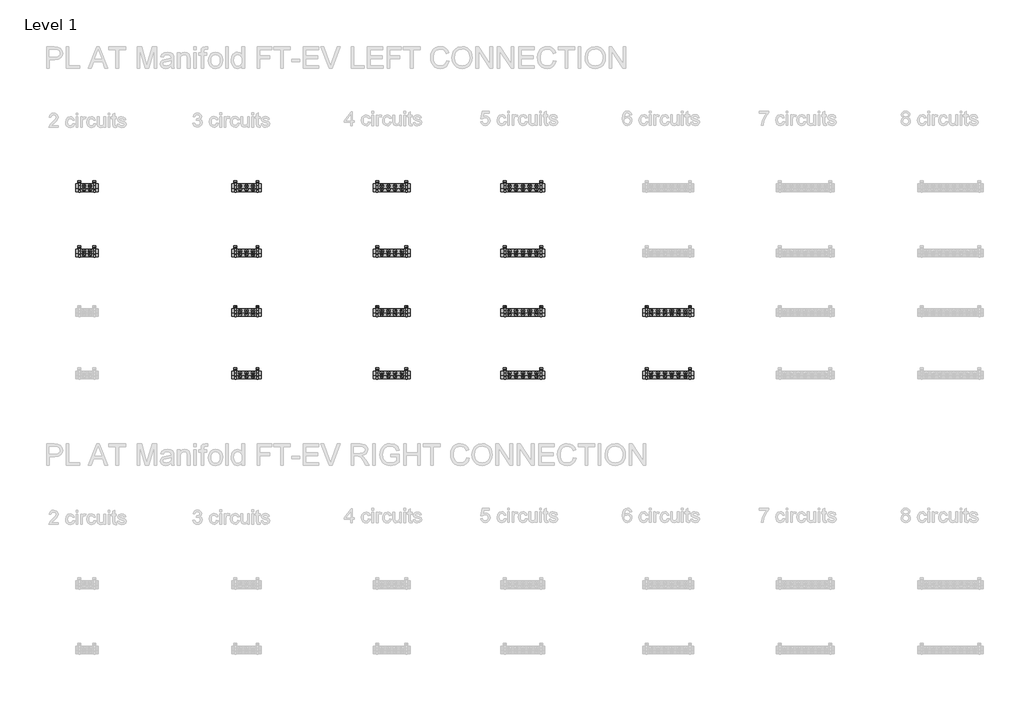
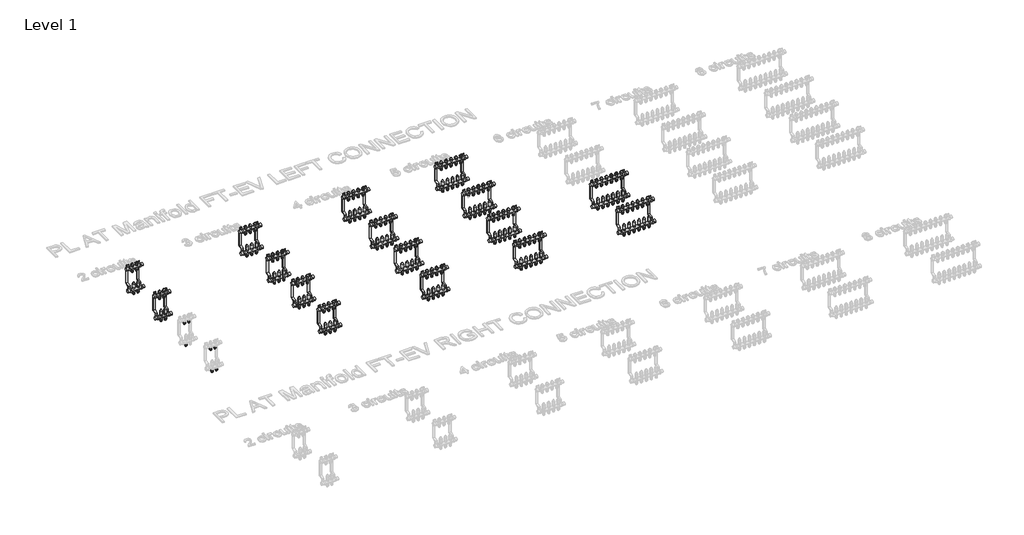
# One storey, part 8 of 23: 134 pipe fittings, 16 valves.
"""IFC4 building model written with IfcOpenShell, lengths in millimetres."""

from ifc_helpers import new_model, si_unit, origin, place, context, project, spatial, transform, mapped, element, save
from components import pipe_fitting_03c6499f, valve_7f0c1a37, valve_5e9e6dc7, valve_06e325c5, valve_a29cd3ca, valve_0794a25a, valve_64aa8ca1, valve_0c7f9d95, valve_02e7046f

model = new_model("IFC4")

# Units and contexts
model_context = context("Model", 3, world=origin())
ifc_project = project(units=[si_unit("LENGTHUNIT", "METRE", prefix="MILLI")], contexts=[model_context])

# Site, building, storey
site = spatial("IfcSite", under=ifc_project)
building = spatial("IfcBuilding", under=site)
storey = spatial("IfcBuildingStorey", under=building, Name="Level 1", Elevation=0.0)

# Pipe fittings
placement = place(None, origin())
pipe_fitting_shape = pipe_fitting_03c6499f(model_context)
element("IfcPipeFitting", 1, ObjectType="Euroconus screwing for multilayer pipes - Manifold FT : Euroconus screwing for multilayer pipes - Manifold FT", at=placement, inside=storey, context=model_context, shape_type="MappedRepresentation", body=[
    mapped(pipe_fitting_shape, transform((1334.9796862, 1635.3040686, 62.88733), x_axis=(0.0, 0.0, -1.0), y_axis=(0.0, 1.0000000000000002, 0.0), z_axis=(1.0000000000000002, 0.0, 0.0))),
])
element("IfcPipeFitting", 2, ObjectType="Euroconus screwing for multilayer pipes - Manifold FT : Euroconus screwing for multilayer pipes - Manifold FT", at=placement, inside=storey, context=model_context, shape_type="MappedRepresentation", body=[
    mapped(pipe_fitting_shape, transform((1334.9796862, 1660.3040686, 272.88733), x_axis=(0.0, 0.0, -1.0), y_axis=(0.0, 1.0000000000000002, 0.0), z_axis=(1.0000000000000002, 0.0, 0.0))),
])
element("IfcPipeFitting", 3, ObjectType="Euroconus screwing for multilayer pipes - Manifold FT : Euroconus screwing for multilayer pipes - Manifold FT", at=placement, inside=storey, context=model_context, shape_type="MappedRepresentation", body=[
    mapped(pipe_fitting_shape, transform((1292.9796862, 1635.3040686, 62.88733), x_axis=(0.0, 0.0, -1.0), y_axis=(0.0, 1.0000000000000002, 0.0), z_axis=(1.0000000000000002, 0.0, 0.0))),
])
element("IfcPipeFitting", 4, ObjectType="Euroconus screwing for multilayer pipes - Manifold FT : Euroconus screwing for multilayer pipes - Manifold FT", at=placement, inside=storey, context=model_context, shape_type="MappedRepresentation", body=[
    mapped(pipe_fitting_shape, transform((1292.9796862, 1660.3040686, 272.88733), x_axis=(0.0, 0.0, -1.0), y_axis=(0.0, 1.0000000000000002, 0.0), z_axis=(1.0000000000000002, 0.0, 0.0))),
])
element("IfcPipeFitting", 5, ObjectType="Euroconus screwing for multilayer pipes - Manifold FT : Euroconus screwing for multilayer pipes - Manifold FT", at=placement, inside=storey, context=model_context, shape_type="MappedRepresentation", body=[
    mapped(pipe_fitting_shape, transform((1334.9796862, 1175.3040686, 62.88733), x_axis=(0.0, 0.0, -1.0), y_axis=(0.0, 1.0000000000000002, 0.0), z_axis=(1.0000000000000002, 0.0, 0.0))),
])
element("IfcPipeFitting", 6, ObjectType="Euroconus screwing for multilayer pipes - Manifold FT : Euroconus screwing for multilayer pipes - Manifold FT", at=placement, inside=storey, context=model_context, shape_type="MappedRepresentation", body=[
    mapped(pipe_fitting_shape, transform((1334.9796862, 1200.3040686, 272.88733), x_axis=(0.0, 0.0, -1.0), y_axis=(0.0, 1.0000000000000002, 0.0), z_axis=(1.0000000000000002, 0.0, 0.0))),
])
element("IfcPipeFitting", 7, ObjectType="Euroconus screwing for multilayer pipes - Manifold FT : Euroconus screwing for multilayer pipes - Manifold FT", at=placement, inside=storey, context=model_context, shape_type="MappedRepresentation", body=[
    mapped(pipe_fitting_shape, transform((1292.9796862, 1175.3040686, 62.88733), x_axis=(0.0, 0.0, -1.0), y_axis=(0.0, 1.0000000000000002, 0.0), z_axis=(1.0000000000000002, 0.0, 0.0))),
])
element("IfcPipeFitting", 8, ObjectType="Euroconus screwing for multilayer pipes - Manifold FT : Euroconus screwing for multilayer pipes - Manifold FT", at=placement, inside=storey, context=model_context, shape_type="MappedRepresentation", body=[
    mapped(pipe_fitting_shape, transform((1292.9796862, 1200.3040686, 272.88733), x_axis=(0.0, 0.0, -1.0), y_axis=(0.0, 1.0000000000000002, 0.0), z_axis=(1.0000000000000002, 0.0, 0.0))),
])
element("IfcPipeFitting", 9, ObjectType="Euroconus screwing for multilayer pipes - Manifold FT : Euroconus screwing for multilayer pipes - Manifold FT", at=placement, inside=storey, context=model_context, shape_type="MappedRepresentation", body=[
    mapped(pipe_fitting_shape, transform((1334.9796862, 780.3040686, 272.88733), x_axis=(0.0, 0.0, -1.0), y_axis=(0.0, 1.0000000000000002, 0.0), z_axis=(1.0000000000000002, 0.0, 0.0))),
])
element("IfcPipeFitting", 10, ObjectType="Euroconus screwing for multilayer pipes - Manifold FT : Euroconus screwing for multilayer pipes - Manifold FT", at=placement, inside=storey, context=model_context, shape_type="MappedRepresentation", body=[
    mapped(pipe_fitting_shape, transform((1292.9796862, 755.3040686, 62.88733), x_axis=(0.0, 0.0, -1.0), y_axis=(0.0, 1.0000000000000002, 0.0), z_axis=(1.0000000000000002, 0.0, 0.0))),
])
element("IfcPipeFitting", 11, ObjectType="Euroconus screwing for multilayer pipes - Manifold FT : Euroconus screwing for multilayer pipes - Manifold FT", at=placement, inside=storey, context=model_context, shape_type="MappedRepresentation", body=[
    mapped(pipe_fitting_shape, transform((1292.9796862, 780.3040686, 272.88733), x_axis=(0.0, 0.0, -1.0), y_axis=(0.0, 1.0000000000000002, 0.0), z_axis=(1.0000000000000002, 0.0, 0.0))),
])
element("IfcPipeFitting", 12, ObjectType="Euroconus screwing for multilayer pipes - Manifold FT : Euroconus screwing for multilayer pipes - Manifold FT", at=placement, inside=storey, context=model_context, shape_type="MappedRepresentation", body=[
    mapped(pipe_fitting_shape, transform((1334.9796862, 315.3040686, 62.88733), x_axis=(0.0, 0.0, -1.0), y_axis=(0.0, 1.0000000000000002, 0.0), z_axis=(1.0000000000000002, 0.0, 0.0))),
])
element("IfcPipeFitting", 13, ObjectType="Euroconus screwing for multilayer pipes - Manifold FT : Euroconus screwing for multilayer pipes - Manifold FT", at=placement, inside=storey, context=model_context, shape_type="MappedRepresentation", body=[
    mapped(pipe_fitting_shape, transform((1334.9796862, 340.3040686, 272.88733), x_axis=(0.0, 0.0, -1.0), y_axis=(0.0, 1.0000000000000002, 0.0), z_axis=(1.0000000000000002, 0.0, 0.0))),
])
element("IfcPipeFitting", 14, ObjectType="Euroconus screwing for multilayer pipes - Manifold FT : Euroconus screwing for multilayer pipes - Manifold FT", at=placement, inside=storey, context=model_context, shape_type="MappedRepresentation", body=[
    mapped(pipe_fitting_shape, transform((1292.9796862, 315.3040686, 62.88733), x_axis=(0.0, 0.0, -1.0), y_axis=(0.0, 1.0000000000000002, 0.0), z_axis=(1.0000000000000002, 0.0, 0.0))),
])
element("IfcPipeFitting", 15, ObjectType="Euroconus screwing for multilayer pipes - Manifold FT : Euroconus screwing for multilayer pipes - Manifold FT", at=placement, inside=storey, context=model_context, shape_type="MappedRepresentation", body=[
    mapped(pipe_fitting_shape, transform((1292.9796862, 340.3040686, 272.88733), x_axis=(0.0, 0.0, -1.0), y_axis=(0.0, 1.0000000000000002, 0.0), z_axis=(1.0000000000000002, 0.0, 0.0))),
])
element("IfcPipeFitting", 16, ObjectType="Euroconus screwing for multilayer pipes - Manifold FT : Euroconus screwing for multilayer pipes - Manifold FT", at=placement, inside=storey, context=model_context, shape_type="MappedRepresentation", body=[
    mapped(pipe_fitting_shape, transform((2438.9796862, 1635.3040686, 62.88733), x_axis=(0.0, 0.0, -1.0), y_axis=(0.0, 1.0000000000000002, 0.0), z_axis=(1.0000000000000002, 0.0, 0.0))),
])
element("IfcPipeFitting", 17, ObjectType="Euroconus screwing for multilayer pipes - Manifold FT : Euroconus screwing for multilayer pipes - Manifold FT", at=placement, inside=storey, context=model_context, shape_type="MappedRepresentation", body=[
    mapped(pipe_fitting_shape, transform((2484.9796862, 1635.3040686, 62.88733), x_axis=(0.0, 0.0, -1.0), y_axis=(0.0, 1.0000000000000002, 0.0), z_axis=(1.0000000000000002, 0.0, 0.0))),
])
element("IfcPipeFitting", 18, ObjectType="Euroconus screwing for multilayer pipes - Manifold FT : Euroconus screwing for multilayer pipes - Manifold FT", at=placement, inside=storey, context=model_context, shape_type="MappedRepresentation", body=[
    mapped(pipe_fitting_shape, transform((2438.9796862, 1660.3040686, 272.88733), x_axis=(0.0, 0.0, -1.0), y_axis=(0.0, 1.0000000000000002, 0.0), z_axis=(1.0000000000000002, 0.0, 0.0))),
])
element("IfcPipeFitting", 19, ObjectType="Euroconus screwing for multilayer pipes - Manifold FT : Euroconus screwing for multilayer pipes - Manifold FT", at=placement, inside=storey, context=model_context, shape_type="MappedRepresentation", body=[
    mapped(pipe_fitting_shape, transform((2484.9796862, 1660.3040686, 272.88733), x_axis=(0.0, 0.0, -1.0), y_axis=(0.0, 1.0000000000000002, 0.0), z_axis=(1.0000000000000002, 0.0, 0.0))),
])
element("IfcPipeFitting", 20, ObjectType="Euroconus screwing for multilayer pipes - Manifold FT : Euroconus screwing for multilayer pipes - Manifold FT", at=placement, inside=storey, context=model_context, shape_type="MappedRepresentation", body=[
    mapped(pipe_fitting_shape, transform((2392.9796862, 1635.3040686, 62.88733), x_axis=(0.0, 0.0, -1.0), y_axis=(0.0, 1.0000000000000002, 0.0), z_axis=(1.0000000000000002, 0.0, 0.0))),
])
element("IfcPipeFitting", 21, ObjectType="Euroconus screwing for multilayer pipes - Manifold FT : Euroconus screwing for multilayer pipes - Manifold FT", at=placement, inside=storey, context=model_context, shape_type="MappedRepresentation", body=[
    mapped(pipe_fitting_shape, transform((2392.9796862, 1660.3040686, 272.88733), x_axis=(0.0, 0.0, -1.0), y_axis=(0.0, 1.0000000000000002, 0.0), z_axis=(1.0000000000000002, 0.0, 0.0))),
])
element("IfcPipeFitting", 22, ObjectType="Euroconus screwing for multilayer pipes - Manifold FT : Euroconus screwing for multilayer pipes - Manifold FT", at=placement, inside=storey, context=model_context, shape_type="MappedRepresentation", body=[
    mapped(pipe_fitting_shape, transform((2438.9796862, 1175.3040686, 62.88733), x_axis=(0.0, 0.0, -1.0), y_axis=(0.0, 1.0000000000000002, 0.0), z_axis=(1.0000000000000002, 0.0, 0.0))),
])
element("IfcPipeFitting", 23, ObjectType="Euroconus screwing for multilayer pipes - Manifold FT : Euroconus screwing for multilayer pipes - Manifold FT", at=placement, inside=storey, context=model_context, shape_type="MappedRepresentation", body=[
    mapped(pipe_fitting_shape, transform((2484.9796862, 1175.3040686, 62.88733), x_axis=(0.0, 0.0, -1.0), y_axis=(0.0, 1.0000000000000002, 0.0), z_axis=(1.0000000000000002, 0.0, 0.0))),
])
element("IfcPipeFitting", 24, ObjectType="Euroconus screwing for multilayer pipes - Manifold FT : Euroconus screwing for multilayer pipes - Manifold FT", at=placement, inside=storey, context=model_context, shape_type="MappedRepresentation", body=[
    mapped(pipe_fitting_shape, transform((2438.9796862, 1200.3040686, 272.88733), x_axis=(0.0, 0.0, -1.0), y_axis=(0.0, 1.0000000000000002, 0.0), z_axis=(1.0000000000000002, 0.0, 0.0))),
])
element("IfcPipeFitting", 25, ObjectType="Euroconus screwing for multilayer pipes - Manifold FT : Euroconus screwing for multilayer pipes - Manifold FT", at=placement, inside=storey, context=model_context, shape_type="MappedRepresentation", body=[
    mapped(pipe_fitting_shape, transform((2484.9796862, 1200.3040686, 272.88733), x_axis=(0.0, 0.0, -1.0), y_axis=(0.0, 1.0000000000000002, 0.0), z_axis=(1.0000000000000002, 0.0, 0.0))),
])
element("IfcPipeFitting", 26, ObjectType="Euroconus screwing for multilayer pipes - Manifold FT : Euroconus screwing for multilayer pipes - Manifold FT", at=placement, inside=storey, context=model_context, shape_type="MappedRepresentation", body=[
    mapped(pipe_fitting_shape, transform((2392.9796862, 1175.3040686, 62.88733), x_axis=(0.0, 0.0, -1.0), y_axis=(0.0, 1.0000000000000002, 0.0), z_axis=(1.0000000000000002, 0.0, 0.0))),
])
element("IfcPipeFitting", 27, ObjectType="Euroconus screwing for multilayer pipes - Manifold FT : Euroconus screwing for multilayer pipes - Manifold FT", at=placement, inside=storey, context=model_context, shape_type="MappedRepresentation", body=[
    mapped(pipe_fitting_shape, transform((2392.9796862, 1200.3040686, 272.88733), x_axis=(0.0, 0.0, -1.0), y_axis=(0.0, 1.0000000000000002, 0.0), z_axis=(1.0000000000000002, 0.0, 0.0))),
])
element("IfcPipeFitting", 28, ObjectType="Euroconus screwing for multilayer pipes - Manifold FT : Euroconus screwing for multilayer pipes - Manifold FT", at=placement, inside=storey, context=model_context, shape_type="MappedRepresentation", body=[
    mapped(pipe_fitting_shape, transform((2438.9796862, 755.3040686, 62.88733), x_axis=(0.0, 0.0, -1.0), y_axis=(0.0, 1.0000000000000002, 0.0), z_axis=(1.0000000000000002, 0.0, 0.0))),
])
element("IfcPipeFitting", 29, ObjectType="Euroconus screwing for multilayer pipes - Manifold FT : Euroconus screwing for multilayer pipes - Manifold FT", at=placement, inside=storey, context=model_context, shape_type="MappedRepresentation", body=[
    mapped(pipe_fitting_shape, transform((2484.9796862, 755.3040686, 62.88733), x_axis=(0.0, 0.0, -1.0), y_axis=(0.0, 1.0000000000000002, 0.0), z_axis=(1.0000000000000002, 0.0, 0.0))),
])
element("IfcPipeFitting", 30, ObjectType="Euroconus screwing for multilayer pipes - Manifold FT : Euroconus screwing for multilayer pipes - Manifold FT", at=placement, inside=storey, context=model_context, shape_type="MappedRepresentation", body=[
    mapped(pipe_fitting_shape, transform((2438.9796862, 780.3040686, 272.88733), x_axis=(0.0, 0.0, -1.0), y_axis=(0.0, 1.0000000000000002, 0.0), z_axis=(1.0000000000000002, 0.0, 0.0))),
])
element("IfcPipeFitting", 31, ObjectType="Euroconus screwing for multilayer pipes - Manifold FT : Euroconus screwing for multilayer pipes - Manifold FT", at=placement, inside=storey, context=model_context, shape_type="MappedRepresentation", body=[
    mapped(pipe_fitting_shape, transform((2484.9796862, 780.3040686, 272.88733), x_axis=(0.0, 0.0, -1.0), y_axis=(0.0, 1.0000000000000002, 0.0), z_axis=(1.0000000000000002, 0.0, 0.0))),
])
element("IfcPipeFitting", 32, ObjectType="Euroconus screwing for multilayer pipes - Manifold FT : Euroconus screwing for multilayer pipes - Manifold FT", at=placement, inside=storey, context=model_context, shape_type="MappedRepresentation", body=[
    mapped(pipe_fitting_shape, transform((2392.9796862, 755.3040686, 62.88733), x_axis=(0.0, 0.0, -1.0), y_axis=(0.0, 1.0000000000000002, 0.0), z_axis=(1.0000000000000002, 0.0, 0.0))),
])
element("IfcPipeFitting", 33, ObjectType="Euroconus screwing for multilayer pipes - Manifold FT : Euroconus screwing for multilayer pipes - Manifold FT", at=placement, inside=storey, context=model_context, shape_type="MappedRepresentation", body=[
    mapped(pipe_fitting_shape, transform((2392.9796862, 780.3040686, 272.88733), x_axis=(0.0, 0.0, -1.0), y_axis=(0.0, 1.0000000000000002, 0.0), z_axis=(1.0000000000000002, 0.0, 0.0))),
])
element("IfcPipeFitting", 34, ObjectType="Euroconus screwing for multilayer pipes - Manifold FT : Euroconus screwing for multilayer pipes - Manifold FT", at=placement, inside=storey, context=model_context, shape_type="MappedRepresentation", body=[
    mapped(pipe_fitting_shape, transform((2438.9796862, 315.3040686, 62.88733), x_axis=(0.0, 0.0, -1.0), y_axis=(0.0, 1.0000000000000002, 0.0), z_axis=(1.0000000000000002, 0.0, 0.0))),
])
element("IfcPipeFitting", 35, ObjectType="Euroconus screwing for multilayer pipes - Manifold FT : Euroconus screwing for multilayer pipes - Manifold FT", at=placement, inside=storey, context=model_context, shape_type="MappedRepresentation", body=[
    mapped(pipe_fitting_shape, transform((2484.9796862, 315.3040686, 62.88733), x_axis=(0.0, 0.0, -1.0), y_axis=(0.0, 1.0000000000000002, 0.0), z_axis=(1.0000000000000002, 0.0, 0.0))),
])
element("IfcPipeFitting", 36, ObjectType="Euroconus screwing for multilayer pipes - Manifold FT : Euroconus screwing for multilayer pipes - Manifold FT", at=placement, inside=storey, context=model_context, shape_type="MappedRepresentation", body=[
    mapped(pipe_fitting_shape, transform((2438.9796862, 340.3040686, 272.88733), x_axis=(0.0, 0.0, -1.0), y_axis=(0.0, 1.0000000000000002, 0.0), z_axis=(1.0000000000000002, 0.0, 0.0))),
])
element("IfcPipeFitting", 37, ObjectType="Euroconus screwing for multilayer pipes - Manifold FT : Euroconus screwing for multilayer pipes - Manifold FT", at=placement, inside=storey, context=model_context, shape_type="MappedRepresentation", body=[
    mapped(pipe_fitting_shape, transform((2484.9796862, 340.3040686, 272.88733), x_axis=(0.0, 0.0, -1.0), y_axis=(0.0, 1.0000000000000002, 0.0), z_axis=(1.0000000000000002, 0.0, 0.0))),
])
element("IfcPipeFitting", 38, ObjectType="Euroconus screwing for multilayer pipes - Manifold FT : Euroconus screwing for multilayer pipes - Manifold FT", at=placement, inside=storey, context=model_context, shape_type="MappedRepresentation", body=[
    mapped(pipe_fitting_shape, transform((2392.9796862, 315.3040686, 62.88733), x_axis=(0.0, 0.0, -1.0), y_axis=(0.0, 1.0000000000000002, 0.0), z_axis=(1.0000000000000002, 0.0, 0.0))),
])
element("IfcPipeFitting", 39, ObjectType="Euroconus screwing for multilayer pipes - Manifold FT : Euroconus screwing for multilayer pipes - Manifold FT", at=placement, inside=storey, context=model_context, shape_type="MappedRepresentation", body=[
    mapped(pipe_fitting_shape, transform((2392.9796862, 340.3040686, 272.88733), x_axis=(0.0, 0.0, -1.0), y_axis=(0.0, 1.0000000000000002, 0.0), z_axis=(1.0000000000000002, 0.0, 0.0))),
])
element("IfcPipeFitting", 40, ObjectType="Euroconus screwing for multilayer pipes - Manifold FT : Euroconus screwing for multilayer pipes - Manifold FT", at=placement, inside=storey, context=model_context, shape_type="MappedRepresentation", body=[
    mapped(pipe_fitting_shape, transform((3487.6463528, 1635.3040686, 62.88733), x_axis=(0.0, 0.0, -1.0), y_axis=(0.0, 1.0000000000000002, 0.0), z_axis=(1.0000000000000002, 0.0, 0.0))),
])
element("IfcPipeFitting", 41, ObjectType="Euroconus screwing for multilayer pipes - Manifold FT : Euroconus screwing for multilayer pipes - Manifold FT", at=placement, inside=storey, context=model_context, shape_type="MappedRepresentation", body=[
    mapped(pipe_fitting_shape, transform((3440.3130195, 1635.3040686, 62.88733), x_axis=(0.0, 0.0, -1.0), y_axis=(0.0, 1.0000000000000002, 0.0), z_axis=(1.0000000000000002, 0.0, 0.0))),
])
element("IfcPipeFitting", 42, ObjectType="Euroconus screwing for multilayer pipes - Manifold FT : Euroconus screwing for multilayer pipes - Manifold FT", at=placement, inside=storey, context=model_context, shape_type="MappedRepresentation", body=[
    mapped(pipe_fitting_shape, transform((3534.9796862, 1635.3040686, 62.88733), x_axis=(0.0, 0.0, -1.0), y_axis=(0.0, 1.0000000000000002, 0.0), z_axis=(1.0000000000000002, 0.0, 0.0))),
])
element("IfcPipeFitting", 43, ObjectType="Euroconus screwing for multilayer pipes - Manifold FT : Euroconus screwing for multilayer pipes - Manifold FT", at=placement, inside=storey, context=model_context, shape_type="MappedRepresentation", body=[
    mapped(pipe_fitting_shape, transform((3487.6463528, 1660.3040686, 272.88733), x_axis=(0.0, 0.0, -1.0), y_axis=(0.0, 1.0000000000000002, 0.0), z_axis=(1.0000000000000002, 0.0, 0.0))),
])
element("IfcPipeFitting", 44, ObjectType="Euroconus screwing for multilayer pipes - Manifold FT : Euroconus screwing for multilayer pipes - Manifold FT", at=placement, inside=storey, context=model_context, shape_type="MappedRepresentation", body=[
    mapped(pipe_fitting_shape, transform((3440.3130195, 1660.3040686, 272.88733), x_axis=(0.0, 0.0, -1.0), y_axis=(0.0, 1.0000000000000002, 0.0), z_axis=(1.0000000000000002, 0.0, 0.0))),
])
element("IfcPipeFitting", 45, ObjectType="Euroconus screwing for multilayer pipes - Manifold FT : Euroconus screwing for multilayer pipes - Manifold FT", at=placement, inside=storey, context=model_context, shape_type="MappedRepresentation", body=[
    mapped(pipe_fitting_shape, transform((3534.9796862, 1660.3040686, 272.88733), x_axis=(0.0, 0.0, -1.0), y_axis=(0.0, 1.0000000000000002, 0.0), z_axis=(1.0000000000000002, 0.0, 0.0))),
])
element("IfcPipeFitting", 46, ObjectType="Euroconus screwing for multilayer pipes - Manifold FT : Euroconus screwing for multilayer pipes - Manifold FT", at=placement, inside=storey, context=model_context, shape_type="MappedRepresentation", body=[
    mapped(pipe_fitting_shape, transform((3392.9796862, 1635.3040686, 62.88733), x_axis=(0.0, 0.0, -1.0), y_axis=(0.0, 1.0000000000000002, 0.0), z_axis=(1.0000000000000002, 0.0, 0.0))),
])
element("IfcPipeFitting", 47, ObjectType="Euroconus screwing for multilayer pipes - Manifold FT : Euroconus screwing for multilayer pipes - Manifold FT", at=placement, inside=storey, context=model_context, shape_type="MappedRepresentation", body=[
    mapped(pipe_fitting_shape, transform((3392.9796862, 1660.3040686, 272.88733), x_axis=(0.0, 0.0, -1.0), y_axis=(0.0, 1.0000000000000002, 0.0), z_axis=(1.0000000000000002, 0.0, 0.0))),
])
element("IfcPipeFitting", 48, ObjectType="Euroconus screwing for multilayer pipes - Manifold FT : Euroconus screwing for multilayer pipes - Manifold FT", at=placement, inside=storey, context=model_context, shape_type="MappedRepresentation", body=[
    mapped(pipe_fitting_shape, transform((3487.6463528, 1175.3040686, 62.88733), x_axis=(0.0, 0.0, -1.0), y_axis=(0.0, 1.0000000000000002, 0.0), z_axis=(1.0000000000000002, 0.0, 0.0))),
])
element("IfcPipeFitting", 49, ObjectType="Euroconus screwing for multilayer pipes - Manifold FT : Euroconus screwing for multilayer pipes - Manifold FT", at=placement, inside=storey, context=model_context, shape_type="MappedRepresentation", body=[
    mapped(pipe_fitting_shape, transform((3440.3130195, 1175.3040686, 62.88733), x_axis=(0.0, 0.0, -1.0), y_axis=(0.0, 1.0000000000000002, 0.0), z_axis=(1.0000000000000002, 0.0, 0.0))),
])
element("IfcPipeFitting", 50, ObjectType="Euroconus screwing for multilayer pipes - Manifold FT : Euroconus screwing for multilayer pipes - Manifold FT", at=placement, inside=storey, context=model_context, shape_type="MappedRepresentation", body=[
    mapped(pipe_fitting_shape, transform((3534.9796862, 1175.3040686, 62.88733), x_axis=(0.0, 0.0, -1.0), y_axis=(0.0, 1.0000000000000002, 0.0), z_axis=(1.0000000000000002, 0.0, 0.0))),
])
element("IfcPipeFitting", 51, ObjectType="Euroconus screwing for multilayer pipes - Manifold FT : Euroconus screwing for multilayer pipes - Manifold FT", at=placement, inside=storey, context=model_context, shape_type="MappedRepresentation", body=[
    mapped(pipe_fitting_shape, transform((3487.6463528, 1200.3040686, 272.88733), x_axis=(0.0, 0.0, -1.0), y_axis=(0.0, 1.0000000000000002, 0.0), z_axis=(1.0000000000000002, 0.0, 0.0))),
])
element("IfcPipeFitting", 52, ObjectType="Euroconus screwing for multilayer pipes - Manifold FT : Euroconus screwing for multilayer pipes - Manifold FT", at=placement, inside=storey, context=model_context, shape_type="MappedRepresentation", body=[
    mapped(pipe_fitting_shape, transform((3440.3130195, 1200.3040686, 272.88733), x_axis=(0.0, 0.0, -1.0), y_axis=(0.0, 1.0000000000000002, 0.0), z_axis=(1.0000000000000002, 0.0, 0.0))),
])
element("IfcPipeFitting", 53, ObjectType="Euroconus screwing for multilayer pipes - Manifold FT : Euroconus screwing for multilayer pipes - Manifold FT", at=placement, inside=storey, context=model_context, shape_type="MappedRepresentation", body=[
    mapped(pipe_fitting_shape, transform((3534.9796862, 1200.3040686, 272.88733), x_axis=(0.0, 0.0, -1.0), y_axis=(0.0, 1.0000000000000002, 0.0), z_axis=(1.0000000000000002, 0.0, 0.0))),
])
element("IfcPipeFitting", 54, ObjectType="Euroconus screwing for multilayer pipes - Manifold FT : Euroconus screwing for multilayer pipes - Manifold FT", at=placement, inside=storey, context=model_context, shape_type="MappedRepresentation", body=[
    mapped(pipe_fitting_shape, transform((3392.9796862, 1175.3040686, 62.88733), x_axis=(0.0, 0.0, -1.0), y_axis=(0.0, 1.0000000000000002, 0.0), z_axis=(1.0000000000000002, 0.0, 0.0))),
])
element("IfcPipeFitting", 55, ObjectType="Euroconus screwing for multilayer pipes - Manifold FT : Euroconus screwing for multilayer pipes - Manifold FT", at=placement, inside=storey, context=model_context, shape_type="MappedRepresentation", body=[
    mapped(pipe_fitting_shape, transform((3392.9796862, 1200.3040686, 272.88733), x_axis=(0.0, 0.0, -1.0), y_axis=(0.0, 1.0000000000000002, 0.0), z_axis=(1.0000000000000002, 0.0, 0.0))),
])
element("IfcPipeFitting", 56, ObjectType="Euroconus screwing for multilayer pipes - Manifold FT : Euroconus screwing for multilayer pipes - Manifold FT", at=placement, inside=storey, context=model_context, shape_type="MappedRepresentation", body=[
    mapped(pipe_fitting_shape, transform((3487.6463528, 755.3040686, 62.88733), x_axis=(0.0, 0.0, -1.0), y_axis=(0.0, 1.0000000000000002, 0.0), z_axis=(1.0000000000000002, 0.0, 0.0))),
])
element("IfcPipeFitting", 57, ObjectType="Euroconus screwing for multilayer pipes - Manifold FT : Euroconus screwing for multilayer pipes - Manifold FT", at=placement, inside=storey, context=model_context, shape_type="MappedRepresentation", body=[
    mapped(pipe_fitting_shape, transform((3440.3130195, 755.3040686, 62.88733), x_axis=(0.0, 0.0, -1.0), y_axis=(0.0, 1.0000000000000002, 0.0), z_axis=(1.0000000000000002, 0.0, 0.0))),
])
element("IfcPipeFitting", 58, ObjectType="Euroconus screwing for multilayer pipes - Manifold FT : Euroconus screwing for multilayer pipes - Manifold FT", at=placement, inside=storey, context=model_context, shape_type="MappedRepresentation", body=[
    mapped(pipe_fitting_shape, transform((3534.9796862, 755.3040686, 62.88733), x_axis=(0.0, 0.0, -1.0), y_axis=(0.0, 1.0000000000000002, 0.0), z_axis=(1.0000000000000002, 0.0, 0.0))),
])
element("IfcPipeFitting", 59, ObjectType="Euroconus screwing for multilayer pipes - Manifold FT : Euroconus screwing for multilayer pipes - Manifold FT", at=placement, inside=storey, context=model_context, shape_type="MappedRepresentation", body=[
    mapped(pipe_fitting_shape, transform((3487.6463528, 780.3040686, 272.88733), x_axis=(0.0, 0.0, -1.0), y_axis=(0.0, 1.0000000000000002, 0.0), z_axis=(1.0000000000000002, 0.0, 0.0))),
])
element("IfcPipeFitting", 60, ObjectType="Euroconus screwing for multilayer pipes - Manifold FT : Euroconus screwing for multilayer pipes - Manifold FT", at=placement, inside=storey, context=model_context, shape_type="MappedRepresentation", body=[
    mapped(pipe_fitting_shape, transform((3440.3130195, 780.3040686, 272.88733), x_axis=(0.0, 0.0, -1.0), y_axis=(0.0, 1.0000000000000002, 0.0), z_axis=(1.0000000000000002, 0.0, 0.0))),
])
element("IfcPipeFitting", 61, ObjectType="Euroconus screwing for multilayer pipes - Manifold FT : Euroconus screwing for multilayer pipes - Manifold FT", at=placement, inside=storey, context=model_context, shape_type="MappedRepresentation", body=[
    mapped(pipe_fitting_shape, transform((3534.9796862, 780.3040686, 272.88733), x_axis=(0.0, 0.0, -1.0), y_axis=(0.0, 1.0000000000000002, 0.0), z_axis=(1.0000000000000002, 0.0, 0.0))),
])
element("IfcPipeFitting", 62, ObjectType="Euroconus screwing for multilayer pipes - Manifold FT : Euroconus screwing for multilayer pipes - Manifold FT", at=placement, inside=storey, context=model_context, shape_type="MappedRepresentation", body=[
    mapped(pipe_fitting_shape, transform((3392.9796862, 755.3040686, 62.88733), x_axis=(0.0, 0.0, -1.0), y_axis=(0.0, 1.0000000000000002, 0.0), z_axis=(1.0000000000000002, 0.0, 0.0))),
])
element("IfcPipeFitting", 63, ObjectType="Euroconus screwing for multilayer pipes - Manifold FT : Euroconus screwing for multilayer pipes - Manifold FT", at=placement, inside=storey, context=model_context, shape_type="MappedRepresentation", body=[
    mapped(pipe_fitting_shape, transform((3392.9796862, 780.3040686, 272.88733), x_axis=(0.0, 0.0, -1.0), y_axis=(0.0, 1.0000000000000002, 0.0), z_axis=(1.0000000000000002, 0.0, 0.0))),
])
element("IfcPipeFitting", 64, ObjectType="Euroconus screwing for multilayer pipes - Manifold FT : Euroconus screwing for multilayer pipes - Manifold FT", at=placement, inside=storey, context=model_context, shape_type="MappedRepresentation", body=[
    mapped(pipe_fitting_shape, transform((3487.6463528, 315.3040686, 62.88733), x_axis=(0.0, 0.0, -1.0), y_axis=(0.0, 1.0000000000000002, 0.0), z_axis=(1.0000000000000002, 0.0, 0.0))),
])
element("IfcPipeFitting", 65, ObjectType="Euroconus screwing for multilayer pipes - Manifold FT : Euroconus screwing for multilayer pipes - Manifold FT", at=placement, inside=storey, context=model_context, shape_type="MappedRepresentation", body=[
    mapped(pipe_fitting_shape, transform((3440.3130195, 315.3040686, 62.88733), x_axis=(0.0, 0.0, -1.0), y_axis=(0.0, 1.0000000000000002, 0.0), z_axis=(1.0000000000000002, 0.0, 0.0))),
])
element("IfcPipeFitting", 66, ObjectType="Euroconus screwing for multilayer pipes - Manifold FT : Euroconus screwing for multilayer pipes - Manifold FT", at=placement, inside=storey, context=model_context, shape_type="MappedRepresentation", body=[
    mapped(pipe_fitting_shape, transform((3534.9796862, 315.3040686, 62.88733), x_axis=(0.0, 0.0, -1.0), y_axis=(0.0, 1.0000000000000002, 0.0), z_axis=(1.0000000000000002, 0.0, 0.0))),
])
element("IfcPipeFitting", 67, ObjectType="Euroconus screwing for multilayer pipes - Manifold FT : Euroconus screwing for multilayer pipes - Manifold FT", at=placement, inside=storey, context=model_context, shape_type="MappedRepresentation", body=[
    mapped(pipe_fitting_shape, transform((3487.6463528, 340.3040686, 272.88733), x_axis=(0.0, 0.0, -1.0), y_axis=(0.0, 1.0000000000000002, 0.0), z_axis=(1.0000000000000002, 0.0, 0.0))),
])
element("IfcPipeFitting", 68, ObjectType="Euroconus screwing for multilayer pipes - Manifold FT : Euroconus screwing for multilayer pipes - Manifold FT", at=placement, inside=storey, context=model_context, shape_type="MappedRepresentation", body=[
    mapped(pipe_fitting_shape, transform((3440.3130195, 340.3040686, 272.88733), x_axis=(0.0, 0.0, -1.0), y_axis=(0.0, 1.0000000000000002, 0.0), z_axis=(1.0000000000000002, 0.0, 0.0))),
])
element("IfcPipeFitting", 69, ObjectType="Euroconus screwing for multilayer pipes - Manifold FT : Euroconus screwing for multilayer pipes - Manifold FT", at=placement, inside=storey, context=model_context, shape_type="MappedRepresentation", body=[
    mapped(pipe_fitting_shape, transform((3534.9796862, 340.3040686, 272.88733), x_axis=(0.0, 0.0, -1.0), y_axis=(0.0, 1.0000000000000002, 0.0), z_axis=(1.0000000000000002, 0.0, 0.0))),
])
element("IfcPipeFitting", 70, ObjectType="Euroconus screwing for multilayer pipes - Manifold FT : Euroconus screwing for multilayer pipes - Manifold FT", at=placement, inside=storey, context=model_context, shape_type="MappedRepresentation", body=[
    mapped(pipe_fitting_shape, transform((3392.9796862, 315.3040686, 62.88733), x_axis=(0.0, 0.0, -1.0), y_axis=(0.0, 1.0000000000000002, 0.0), z_axis=(1.0000000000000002, 0.0, 0.0))),
])
element("IfcPipeFitting", 71, ObjectType="Euroconus screwing for multilayer pipes - Manifold FT : Euroconus screwing for multilayer pipes - Manifold FT", at=placement, inside=storey, context=model_context, shape_type="MappedRepresentation", body=[
    mapped(pipe_fitting_shape, transform((3392.9796862, 340.3040686, 272.88733), x_axis=(0.0, 0.0, -1.0), y_axis=(0.0, 1.0000000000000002, 0.0), z_axis=(1.0000000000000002, 0.0, 0.0))),
])
element("IfcPipeFitting", 72, ObjectType="Euroconus screwing for multilayer pipes - Manifold FT : Euroconus screwing for multilayer pipes - Manifold FT", at=placement, inside=storey, context=model_context, shape_type="MappedRepresentation", body=[
    mapped(pipe_fitting_shape, transform((4436.9796862, 1635.3040686, 62.88733), x_axis=(0.0, 0.0, -1.0), y_axis=(0.0, 1.0000000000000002, 0.0), z_axis=(1.0000000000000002, 0.0, 0.0))),
])
element("IfcPipeFitting", 73, ObjectType="Euroconus screwing for multilayer pipes - Manifold FT : Euroconus screwing for multilayer pipes - Manifold FT", at=placement, inside=storey, context=model_context, shape_type="MappedRepresentation", body=[
    mapped(pipe_fitting_shape, transform((4388.9796862, 1635.3040686, 62.88733), x_axis=(0.0, 0.0, -1.0), y_axis=(0.0, 1.0000000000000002, 0.0), z_axis=(1.0000000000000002, 0.0, 0.0))),
])
element("IfcPipeFitting", 74, ObjectType="Euroconus screwing for multilayer pipes - Manifold FT : Euroconus screwing for multilayer pipes - Manifold FT", at=placement, inside=storey, context=model_context, shape_type="MappedRepresentation", body=[
    mapped(pipe_fitting_shape, transform((4340.9796862, 1635.3040686, 62.88733), x_axis=(0.0, 0.0, -1.0), y_axis=(0.0, 1.0000000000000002, 0.0), z_axis=(1.0000000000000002, 0.0, 0.0))),
])
element("IfcPipeFitting", 75, ObjectType="Euroconus screwing for multilayer pipes - Manifold FT : Euroconus screwing for multilayer pipes - Manifold FT", at=placement, inside=storey, context=model_context, shape_type="MappedRepresentation", body=[
    mapped(pipe_fitting_shape, transform((4484.9796862, 1635.3040686, 62.88733), x_axis=(0.0, 0.0, -1.0), y_axis=(0.0, 1.0000000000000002, 0.0), z_axis=(1.0000000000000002, 0.0, 0.0))),
])
element("IfcPipeFitting", 76, ObjectType="Euroconus screwing for multilayer pipes - Manifold FT : Euroconus screwing for multilayer pipes - Manifold FT", at=placement, inside=storey, context=model_context, shape_type="MappedRepresentation", body=[
    mapped(pipe_fitting_shape, transform((4436.9796862, 1660.3040686, 272.88733), x_axis=(0.0, 0.0, -1.0), y_axis=(0.0, 1.0000000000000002, 0.0), z_axis=(1.0000000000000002, 0.0, 0.0))),
])
element("IfcPipeFitting", 77, ObjectType="Euroconus screwing for multilayer pipes - Manifold FT : Euroconus screwing for multilayer pipes - Manifold FT", at=placement, inside=storey, context=model_context, shape_type="MappedRepresentation", body=[
    mapped(pipe_fitting_shape, transform((4388.9796862, 1660.3040686, 272.88733), x_axis=(0.0, 0.0, -1.0), y_axis=(0.0, 1.0000000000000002, 0.0), z_axis=(1.0000000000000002, 0.0, 0.0))),
])
element("IfcPipeFitting", 78, ObjectType="Euroconus screwing for multilayer pipes - Manifold FT : Euroconus screwing for multilayer pipes - Manifold FT", at=placement, inside=storey, context=model_context, shape_type="MappedRepresentation", body=[
    mapped(pipe_fitting_shape, transform((4340.9796862, 1660.3040686, 272.88733), x_axis=(0.0, 0.0, -1.0), y_axis=(0.0, 1.0000000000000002, 0.0), z_axis=(1.0000000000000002, 0.0, 0.0))),
])
element("IfcPipeFitting", 79, ObjectType="Euroconus screwing for multilayer pipes - Manifold FT : Euroconus screwing for multilayer pipes - Manifold FT", at=placement, inside=storey, context=model_context, shape_type="MappedRepresentation", body=[
    mapped(pipe_fitting_shape, transform((4484.9796862, 1660.3040686, 272.88733), x_axis=(0.0, 0.0, -1.0), y_axis=(0.0, 1.0000000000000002, 0.0), z_axis=(1.0000000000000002, 0.0, 0.0))),
])
element("IfcPipeFitting", 80, ObjectType="Euroconus screwing for multilayer pipes - Manifold FT : Euroconus screwing for multilayer pipes - Manifold FT", at=placement, inside=storey, context=model_context, shape_type="MappedRepresentation", body=[
    mapped(pipe_fitting_shape, transform((4292.9796862, 1635.3040686, 62.88733), x_axis=(0.0, 0.0, -1.0), y_axis=(0.0, 1.0000000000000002, 0.0), z_axis=(1.0000000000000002, 0.0, 0.0))),
])
element("IfcPipeFitting", 81, ObjectType="Euroconus screwing for multilayer pipes - Manifold FT : Euroconus screwing for multilayer pipes - Manifold FT", at=placement, inside=storey, context=model_context, shape_type="MappedRepresentation", body=[
    mapped(pipe_fitting_shape, transform((4292.9796862, 1660.3040686, 272.88733), x_axis=(0.0, 0.0, -1.0), y_axis=(0.0, 1.0000000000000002, 0.0), z_axis=(1.0000000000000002, 0.0, 0.0))),
])
element("IfcPipeFitting", 82, ObjectType="Euroconus screwing for multilayer pipes - Manifold FT : Euroconus screwing for multilayer pipes - Manifold FT", at=placement, inside=storey, context=model_context, shape_type="MappedRepresentation", body=[
    mapped(pipe_fitting_shape, transform((4436.9796862, 1175.3040686, 62.88733), x_axis=(0.0, 0.0, -1.0), y_axis=(0.0, 1.0000000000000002, 0.0), z_axis=(1.0000000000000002, 0.0, 0.0))),
])
element("IfcPipeFitting", 83, ObjectType="Euroconus screwing for multilayer pipes - Manifold FT : Euroconus screwing for multilayer pipes - Manifold FT", at=placement, inside=storey, context=model_context, shape_type="MappedRepresentation", body=[
    mapped(pipe_fitting_shape, transform((4388.9796862, 1175.3040686, 62.88733), x_axis=(0.0, 0.0, -1.0), y_axis=(0.0, 1.0000000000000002, 0.0), z_axis=(1.0000000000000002, 0.0, 0.0))),
])
element("IfcPipeFitting", 84, ObjectType="Euroconus screwing for multilayer pipes - Manifold FT : Euroconus screwing for multilayer pipes - Manifold FT", at=placement, inside=storey, context=model_context, shape_type="MappedRepresentation", body=[
    mapped(pipe_fitting_shape, transform((4340.9796862, 1175.3040686, 62.88733), x_axis=(0.0, 0.0, -1.0), y_axis=(0.0, 1.0000000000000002, 0.0), z_axis=(1.0000000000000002, 0.0, 0.0))),
])
element("IfcPipeFitting", 85, ObjectType="Euroconus screwing for multilayer pipes - Manifold FT : Euroconus screwing for multilayer pipes - Manifold FT", at=placement, inside=storey, context=model_context, shape_type="MappedRepresentation", body=[
    mapped(pipe_fitting_shape, transform((4484.9796862, 1175.3040686, 62.88733), x_axis=(0.0, 0.0, -1.0), y_axis=(0.0, 1.0000000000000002, 0.0), z_axis=(1.0000000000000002, 0.0, 0.0))),
])
element("IfcPipeFitting", 86, ObjectType="Euroconus screwing for multilayer pipes - Manifold FT : Euroconus screwing for multilayer pipes - Manifold FT", at=placement, inside=storey, context=model_context, shape_type="MappedRepresentation", body=[
    mapped(pipe_fitting_shape, transform((4436.9796862, 1200.3040686, 272.88733), x_axis=(0.0, 0.0, -1.0), y_axis=(0.0, 1.0000000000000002, 0.0), z_axis=(1.0000000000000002, 0.0, 0.0))),
])
element("IfcPipeFitting", 87, ObjectType="Euroconus screwing for multilayer pipes - Manifold FT : Euroconus screwing for multilayer pipes - Manifold FT", at=placement, inside=storey, context=model_context, shape_type="MappedRepresentation", body=[
    mapped(pipe_fitting_shape, transform((4388.9796862, 1200.3040686, 272.88733), x_axis=(0.0, 0.0, -1.0), y_axis=(0.0, 1.0000000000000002, 0.0), z_axis=(1.0000000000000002, 0.0, 0.0))),
])
element("IfcPipeFitting", 88, ObjectType="Euroconus screwing for multilayer pipes - Manifold FT : Euroconus screwing for multilayer pipes - Manifold FT", at=placement, inside=storey, context=model_context, shape_type="MappedRepresentation", body=[
    mapped(pipe_fitting_shape, transform((4340.9796862, 1200.3040686, 272.88733), x_axis=(0.0, 0.0, -1.0), y_axis=(0.0, 1.0000000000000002, 0.0), z_axis=(1.0000000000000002, 0.0, 0.0))),
])
element("IfcPipeFitting", 89, ObjectType="Euroconus screwing for multilayer pipes - Manifold FT : Euroconus screwing for multilayer pipes - Manifold FT", at=placement, inside=storey, context=model_context, shape_type="MappedRepresentation", body=[
    mapped(pipe_fitting_shape, transform((4484.9796862, 1200.3040686, 272.88733), x_axis=(0.0, 0.0, -1.0), y_axis=(0.0, 1.0000000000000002, 0.0), z_axis=(1.0000000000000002, 0.0, 0.0))),
])
element("IfcPipeFitting", 90, ObjectType="Euroconus screwing for multilayer pipes - Manifold FT : Euroconus screwing for multilayer pipes - Manifold FT", at=placement, inside=storey, context=model_context, shape_type="MappedRepresentation", body=[
    mapped(pipe_fitting_shape, transform((4292.9796862, 1175.3040686, 62.88733), x_axis=(0.0, 0.0, -1.0), y_axis=(0.0, 1.0000000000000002, 0.0), z_axis=(1.0000000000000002, 0.0, 0.0))),
])
element("IfcPipeFitting", 91, ObjectType="Euroconus screwing for multilayer pipes - Manifold FT : Euroconus screwing for multilayer pipes - Manifold FT", at=placement, inside=storey, context=model_context, shape_type="MappedRepresentation", body=[
    mapped(pipe_fitting_shape, transform((4436.9796862, 755.3040686, 62.88733), x_axis=(0.0, 0.0, -1.0), y_axis=(0.0, 1.0000000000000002, 0.0), z_axis=(1.0000000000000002, 0.0, 0.0))),
])
element("IfcPipeFitting", 92, ObjectType="Euroconus screwing for multilayer pipes - Manifold FT : Euroconus screwing for multilayer pipes - Manifold FT", at=placement, inside=storey, context=model_context, shape_type="MappedRepresentation", body=[
    mapped(pipe_fitting_shape, transform((4388.9796862, 755.3040686, 62.88733), x_axis=(0.0, 0.0, -1.0), y_axis=(0.0, 1.0000000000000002, 0.0), z_axis=(1.0000000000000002, 0.0, 0.0))),
])
element("IfcPipeFitting", 93, ObjectType="Euroconus screwing for multilayer pipes - Manifold FT : Euroconus screwing for multilayer pipes - Manifold FT", at=placement, inside=storey, context=model_context, shape_type="MappedRepresentation", body=[
    mapped(pipe_fitting_shape, transform((4340.9796862, 755.3040686, 62.88733), x_axis=(0.0, 0.0, -1.0), y_axis=(0.0, 1.0000000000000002, 0.0), z_axis=(1.0000000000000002, 0.0, 0.0))),
])
element("IfcPipeFitting", 94, ObjectType="Euroconus screwing for multilayer pipes - Manifold FT : Euroconus screwing for multilayer pipes - Manifold FT", at=placement, inside=storey, context=model_context, shape_type="MappedRepresentation", body=[
    mapped(pipe_fitting_shape, transform((4484.9796862, 755.3040686, 62.88733), x_axis=(0.0, 0.0, -1.0), y_axis=(0.0, 1.0000000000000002, 0.0), z_axis=(1.0000000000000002, 0.0, 0.0))),
])
element("IfcPipeFitting", 95, ObjectType="Euroconus screwing for multilayer pipes - Manifold FT : Euroconus screwing for multilayer pipes - Manifold FT", at=placement, inside=storey, context=model_context, shape_type="MappedRepresentation", body=[
    mapped(pipe_fitting_shape, transform((4436.9796862, 780.3040686, 272.88733), x_axis=(0.0, 0.0, -1.0), y_axis=(0.0, 1.0000000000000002, 0.0), z_axis=(1.0000000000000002, 0.0, 0.0))),
])
element("IfcPipeFitting", 96, ObjectType="Euroconus screwing for multilayer pipes - Manifold FT : Euroconus screwing for multilayer pipes - Manifold FT", at=placement, inside=storey, context=model_context, shape_type="MappedRepresentation", body=[
    mapped(pipe_fitting_shape, transform((4388.9796862, 780.3040686, 272.88733), x_axis=(0.0, 0.0, -1.0), y_axis=(0.0, 1.0000000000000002, 0.0), z_axis=(1.0000000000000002, 0.0, 0.0))),
])
element("IfcPipeFitting", 97, ObjectType="Euroconus screwing for multilayer pipes - Manifold FT : Euroconus screwing for multilayer pipes - Manifold FT", at=placement, inside=storey, context=model_context, shape_type="MappedRepresentation", body=[
    mapped(pipe_fitting_shape, transform((4340.9796862, 780.3040686, 272.88733), x_axis=(0.0, 0.0, -1.0), y_axis=(0.0, 1.0000000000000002, 0.0), z_axis=(1.0000000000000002, 0.0, 0.0))),
])
element("IfcPipeFitting", 98, ObjectType="Euroconus screwing for multilayer pipes - Manifold FT : Euroconus screwing for multilayer pipes - Manifold FT", at=placement, inside=storey, context=model_context, shape_type="MappedRepresentation", body=[
    mapped(pipe_fitting_shape, transform((4484.9796862, 780.3040686, 272.88733), x_axis=(0.0, 0.0, -1.0), y_axis=(0.0, 1.0000000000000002, 0.0), z_axis=(1.0000000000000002, 0.0, 0.0))),
])
element("IfcPipeFitting", 99, ObjectType="Euroconus screwing for multilayer pipes - Manifold FT : Euroconus screwing for multilayer pipes - Manifold FT", at=placement, inside=storey, context=model_context, shape_type="MappedRepresentation", body=[
    mapped(pipe_fitting_shape, transform((4292.9796862, 755.3040686, 62.88733), x_axis=(0.0, 0.0, -1.0), y_axis=(0.0, 1.0000000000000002, 0.0), z_axis=(1.0000000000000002, 0.0, 0.0))),
])
element("IfcPipeFitting", 100, ObjectType="Euroconus screwing for multilayer pipes - Manifold FT : Euroconus screwing for multilayer pipes - Manifold FT", at=placement, inside=storey, context=model_context, shape_type="MappedRepresentation", body=[
    mapped(pipe_fitting_shape, transform((4292.9796862, 780.3040686, 272.88733), x_axis=(0.0, 0.0, -1.0), y_axis=(0.0, 1.0000000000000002, 0.0), z_axis=(1.0000000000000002, 0.0, 0.0))),
])
element("IfcPipeFitting", 101, ObjectType="Euroconus screwing for multilayer pipes - Manifold FT : Euroconus screwing for multilayer pipes - Manifold FT", at=placement, inside=storey, context=model_context, shape_type="MappedRepresentation", body=[
    mapped(pipe_fitting_shape, transform((4436.9796862, 315.3040686, 62.88733), x_axis=(0.0, 0.0, -1.0), y_axis=(0.0, 1.0000000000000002, 0.0), z_axis=(1.0000000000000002, 0.0, 0.0))),
])
element("IfcPipeFitting", 102, ObjectType="Euroconus screwing for multilayer pipes - Manifold FT : Euroconus screwing for multilayer pipes - Manifold FT", at=placement, inside=storey, context=model_context, shape_type="MappedRepresentation", body=[
    mapped(pipe_fitting_shape, transform((4388.9796862, 315.3040686, 62.88733), x_axis=(0.0, 0.0, -1.0), y_axis=(0.0, 1.0000000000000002, 0.0), z_axis=(1.0000000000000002, 0.0, 0.0))),
])
element("IfcPipeFitting", 103, ObjectType="Euroconus screwing for multilayer pipes - Manifold FT : Euroconus screwing for multilayer pipes - Manifold FT", at=placement, inside=storey, context=model_context, shape_type="MappedRepresentation", body=[
    mapped(pipe_fitting_shape, transform((4340.9796862, 315.3040686, 62.88733), x_axis=(0.0, 0.0, -1.0), y_axis=(0.0, 1.0000000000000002, 0.0), z_axis=(1.0000000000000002, 0.0, 0.0))),
])
element("IfcPipeFitting", 104, ObjectType="Euroconus screwing for multilayer pipes - Manifold FT : Euroconus screwing for multilayer pipes - Manifold FT", at=placement, inside=storey, context=model_context, shape_type="MappedRepresentation", body=[
    mapped(pipe_fitting_shape, transform((4484.9796862, 315.3040686, 62.88733), x_axis=(0.0, 0.0, -1.0), y_axis=(0.0, 1.0000000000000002, 0.0), z_axis=(1.0000000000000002, 0.0, 0.0))),
])
element("IfcPipeFitting", 105, ObjectType="Euroconus screwing for multilayer pipes - Manifold FT : Euroconus screwing for multilayer pipes - Manifold FT", at=placement, inside=storey, context=model_context, shape_type="MappedRepresentation", body=[
    mapped(pipe_fitting_shape, transform((4436.9796862, 340.3040686, 272.88733), x_axis=(0.0, 0.0, -1.0), y_axis=(0.0, 1.0000000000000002, 0.0), z_axis=(1.0000000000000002, 0.0, 0.0))),
])
element("IfcPipeFitting", 106, ObjectType="Euroconus screwing for multilayer pipes - Manifold FT : Euroconus screwing for multilayer pipes - Manifold FT", at=placement, inside=storey, context=model_context, shape_type="MappedRepresentation", body=[
    mapped(pipe_fitting_shape, transform((4388.9796862, 340.3040686, 272.88733), x_axis=(0.0, 0.0, -1.0), y_axis=(0.0, 1.0000000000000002, 0.0), z_axis=(1.0000000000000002, 0.0, 0.0))),
])
element("IfcPipeFitting", 107, ObjectType="Euroconus screwing for multilayer pipes - Manifold FT : Euroconus screwing for multilayer pipes - Manifold FT", at=placement, inside=storey, context=model_context, shape_type="MappedRepresentation", body=[
    mapped(pipe_fitting_shape, transform((4340.9796862, 340.3040686, 272.88733), x_axis=(0.0, 0.0, -1.0), y_axis=(0.0, 1.0000000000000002, 0.0), z_axis=(1.0000000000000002, 0.0, 0.0))),
])
element("IfcPipeFitting", 108, ObjectType="Euroconus screwing for multilayer pipes - Manifold FT : Euroconus screwing for multilayer pipes - Manifold FT", at=placement, inside=storey, context=model_context, shape_type="MappedRepresentation", body=[
    mapped(pipe_fitting_shape, transform((4484.9796862, 340.3040686, 272.88733), x_axis=(0.0, 0.0, -1.0), y_axis=(0.0, 1.0000000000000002, 0.0), z_axis=(1.0000000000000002, 0.0, 0.0))),
])
element("IfcPipeFitting", 109, ObjectType="Euroconus screwing for multilayer pipes - Manifold FT : Euroconus screwing for multilayer pipes - Manifold FT", at=placement, inside=storey, context=model_context, shape_type="MappedRepresentation", body=[
    mapped(pipe_fitting_shape, transform((4292.9796862, 315.3040686, 62.88733), x_axis=(0.0, 0.0, -1.0), y_axis=(0.0, 1.0000000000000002, 0.0), z_axis=(1.0000000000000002, 0.0, 0.0))),
])
element("IfcPipeFitting", 110, ObjectType="Euroconus screwing for multilayer pipes - Manifold FT : Euroconus screwing for multilayer pipes - Manifold FT", at=placement, inside=storey, context=model_context, shape_type="MappedRepresentation", body=[
    mapped(pipe_fitting_shape, transform((4292.9796862, 340.3040686, 272.88733), x_axis=(0.0, 0.0, -1.0), y_axis=(0.0, 1.0000000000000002, 0.0), z_axis=(1.0000000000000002, 0.0, 0.0))),
])
element("IfcPipeFitting", 111, ObjectType="Euroconus screwing for multilayer pipes - Manifold FT : Euroconus screwing for multilayer pipes - Manifold FT", at=placement, inside=storey, context=model_context, shape_type="MappedRepresentation", body=[
    mapped(pipe_fitting_shape, transform((5486.5796862, 755.3040686, 62.88733), x_axis=(0.0, 0.0, -1.0), y_axis=(0.0, 1.0000000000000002, 0.0), z_axis=(1.0000000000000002, 0.0, 0.0))),
])
element("IfcPipeFitting", 112, ObjectType="Euroconus screwing for multilayer pipes - Manifold FT : Euroconus screwing for multilayer pipes - Manifold FT", at=placement, inside=storey, context=model_context, shape_type="MappedRepresentation", body=[
    mapped(pipe_fitting_shape, transform((5438.1796862, 755.3040686, 62.88733), x_axis=(0.0, 0.0, -1.0), y_axis=(0.0, 1.0000000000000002, 0.0), z_axis=(1.0000000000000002, 0.0, 0.0))),
])
element("IfcPipeFitting", 113, ObjectType="Euroconus screwing for multilayer pipes - Manifold FT : Euroconus screwing for multilayer pipes - Manifold FT", at=placement, inside=storey, context=model_context, shape_type="MappedRepresentation", body=[
    mapped(pipe_fitting_shape, transform((5389.7796862, 755.3040686, 62.88733), x_axis=(0.0, 0.0, -1.0), y_axis=(0.0, 1.0000000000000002, 0.0), z_axis=(1.0000000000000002, 0.0, 0.0))),
])
element("IfcPipeFitting", 114, ObjectType="Euroconus screwing for multilayer pipes - Manifold FT : Euroconus screwing for multilayer pipes - Manifold FT", at=placement, inside=storey, context=model_context, shape_type="MappedRepresentation", body=[
    mapped(pipe_fitting_shape, transform((5341.3796862, 755.3040686, 62.88733), x_axis=(0.0, 0.0, -1.0), y_axis=(0.0, 1.0000000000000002, 0.0), z_axis=(1.0000000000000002, 0.0, 0.0))),
])
element("IfcPipeFitting", 115, ObjectType="Euroconus screwing for multilayer pipes - Manifold FT : Euroconus screwing for multilayer pipes - Manifold FT", at=placement, inside=storey, context=model_context, shape_type="MappedRepresentation", body=[
    mapped(pipe_fitting_shape, transform((5534.9796862, 755.3040686, 62.88733), x_axis=(0.0, 0.0, -1.0), y_axis=(0.0, 1.0000000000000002, 0.0), z_axis=(1.0000000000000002, 0.0, 0.0))),
])
element("IfcPipeFitting", 116, ObjectType="Euroconus screwing for multilayer pipes - Manifold FT : Euroconus screwing for multilayer pipes - Manifold FT", at=placement, inside=storey, context=model_context, shape_type="MappedRepresentation", body=[
    mapped(pipe_fitting_shape, transform((5486.5796862, 780.3040686, 272.88733), x_axis=(0.0, 0.0, -1.0), y_axis=(0.0, 1.0000000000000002, 0.0), z_axis=(1.0000000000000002, 0.0, 0.0))),
])
element("IfcPipeFitting", 117, ObjectType="Euroconus screwing for multilayer pipes - Manifold FT : Euroconus screwing for multilayer pipes - Manifold FT", at=placement, inside=storey, context=model_context, shape_type="MappedRepresentation", body=[
    mapped(pipe_fitting_shape, transform((5438.1796862, 780.3040686, 272.88733), x_axis=(0.0, 0.0, -1.0), y_axis=(0.0, 1.0000000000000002, 0.0), z_axis=(1.0000000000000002, 0.0, 0.0))),
])
element("IfcPipeFitting", 118, ObjectType="Euroconus screwing for multilayer pipes - Manifold FT : Euroconus screwing for multilayer pipes - Manifold FT", at=placement, inside=storey, context=model_context, shape_type="MappedRepresentation", body=[
    mapped(pipe_fitting_shape, transform((5389.7796862, 780.3040686, 272.88733), x_axis=(0.0, 0.0, -1.0), y_axis=(0.0, 1.0000000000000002, 0.0), z_axis=(1.0000000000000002, 0.0, 0.0))),
])
element("IfcPipeFitting", 119, ObjectType="Euroconus screwing for multilayer pipes - Manifold FT : Euroconus screwing for multilayer pipes - Manifold FT", at=placement, inside=storey, context=model_context, shape_type="MappedRepresentation", body=[
    mapped(pipe_fitting_shape, transform((5341.3796862, 780.3040686, 272.88733), x_axis=(0.0, 0.0, -1.0), y_axis=(0.0, 1.0000000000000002, 0.0), z_axis=(1.0000000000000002, 0.0, 0.0))),
])
element("IfcPipeFitting", 120, ObjectType="Euroconus screwing for multilayer pipes - Manifold FT : Euroconus screwing for multilayer pipes - Manifold FT", at=placement, inside=storey, context=model_context, shape_type="MappedRepresentation", body=[
    mapped(pipe_fitting_shape, transform((5534.9796862, 780.3040686, 272.88733), x_axis=(0.0, 0.0, -1.0), y_axis=(0.0, 1.0000000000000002, 0.0), z_axis=(1.0000000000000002, 0.0, 0.0))),
])
element("IfcPipeFitting", 121, ObjectType="Euroconus screwing for multilayer pipes - Manifold FT : Euroconus screwing for multilayer pipes - Manifold FT", at=placement, inside=storey, context=model_context, shape_type="MappedRepresentation", body=[
    mapped(pipe_fitting_shape, transform((5292.9796862, 755.3040686, 62.88733), x_axis=(0.0, 0.0, -1.0), y_axis=(0.0, 1.0000000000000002, 0.0), z_axis=(1.0000000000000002, 0.0, 0.0))),
])
element("IfcPipeFitting", 122, ObjectType="Euroconus screwing for multilayer pipes - Manifold FT : Euroconus screwing for multilayer pipes - Manifold FT", at=placement, inside=storey, context=model_context, shape_type="MappedRepresentation", body=[
    mapped(pipe_fitting_shape, transform((5292.9796862, 780.3040686, 272.88733), x_axis=(0.0, 0.0, -1.0), y_axis=(0.0, 1.0000000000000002, 0.0), z_axis=(1.0000000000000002, 0.0, 0.0))),
])
element("IfcPipeFitting", 123, ObjectType="Euroconus screwing for multilayer pipes - Manifold FT : Euroconus screwing for multilayer pipes - Manifold FT", at=placement, inside=storey, context=model_context, shape_type="MappedRepresentation", body=[
    mapped(pipe_fitting_shape, transform((5486.5796862, 315.3040686, 62.88733), x_axis=(0.0, 0.0, -1.0), y_axis=(0.0, 1.0000000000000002, 0.0), z_axis=(1.0000000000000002, 0.0, 0.0))),
])
element("IfcPipeFitting", 124, ObjectType="Euroconus screwing for multilayer pipes - Manifold FT : Euroconus screwing for multilayer pipes - Manifold FT", at=placement, inside=storey, context=model_context, shape_type="MappedRepresentation", body=[
    mapped(pipe_fitting_shape, transform((5438.1796862, 315.3040686, 62.88733), x_axis=(0.0, 0.0, -1.0), y_axis=(0.0, 1.0000000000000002, 0.0), z_axis=(1.0000000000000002, 0.0, 0.0))),
])
element("IfcPipeFitting", 125, ObjectType="Euroconus screwing for multilayer pipes - Manifold FT : Euroconus screwing for multilayer pipes - Manifold FT", at=placement, inside=storey, context=model_context, shape_type="MappedRepresentation", body=[
    mapped(pipe_fitting_shape, transform((5389.7796862, 315.3040686, 62.88733), x_axis=(0.0, 0.0, -1.0), y_axis=(0.0, 1.0000000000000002, 0.0), z_axis=(1.0000000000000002, 0.0, 0.0))),
])
element("IfcPipeFitting", 126, ObjectType="Euroconus screwing for multilayer pipes - Manifold FT : Euroconus screwing for multilayer pipes - Manifold FT", at=placement, inside=storey, context=model_context, shape_type="MappedRepresentation", body=[
    mapped(pipe_fitting_shape, transform((5341.3796862, 315.3040686, 62.88733), x_axis=(0.0, 0.0, -1.0), y_axis=(0.0, 1.0000000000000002, 0.0), z_axis=(1.0000000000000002, 0.0, 0.0))),
])
element("IfcPipeFitting", 127, ObjectType="Euroconus screwing for multilayer pipes - Manifold FT : Euroconus screwing for multilayer pipes - Manifold FT", at=placement, inside=storey, context=model_context, shape_type="MappedRepresentation", body=[
    mapped(pipe_fitting_shape, transform((5534.9796862, 315.3040686, 62.88733), x_axis=(0.0, 0.0, -1.0), y_axis=(0.0, 1.0000000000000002, 0.0), z_axis=(1.0000000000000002, 0.0, 0.0))),
])
element("IfcPipeFitting", 128, ObjectType="Euroconus screwing for multilayer pipes - Manifold FT : Euroconus screwing for multilayer pipes - Manifold FT", at=placement, inside=storey, context=model_context, shape_type="MappedRepresentation", body=[
    mapped(pipe_fitting_shape, transform((5486.5796862, 340.3040686, 272.88733), x_axis=(0.0, 0.0, -1.0), y_axis=(0.0, 1.0000000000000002, 0.0), z_axis=(1.0000000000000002, 0.0, 0.0))),
])
element("IfcPipeFitting", 129, ObjectType="Euroconus screwing for multilayer pipes - Manifold FT : Euroconus screwing for multilayer pipes - Manifold FT", at=placement, inside=storey, context=model_context, shape_type="MappedRepresentation", body=[
    mapped(pipe_fitting_shape, transform((5438.1796862, 340.3040686, 272.88733), x_axis=(0.0, 0.0, -1.0), y_axis=(0.0, 1.0000000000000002, 0.0), z_axis=(1.0000000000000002, 0.0, 0.0))),
])
element("IfcPipeFitting", 130, ObjectType="Euroconus screwing for multilayer pipes - Manifold FT : Euroconus screwing for multilayer pipes - Manifold FT", at=placement, inside=storey, context=model_context, shape_type="MappedRepresentation", body=[
    mapped(pipe_fitting_shape, transform((5389.7796862, 340.3040686, 272.88733), x_axis=(0.0, 0.0, -1.0), y_axis=(0.0, 1.0000000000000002, 0.0), z_axis=(1.0000000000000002, 0.0, 0.0))),
])
element("IfcPipeFitting", 131, ObjectType="Euroconus screwing for multilayer pipes - Manifold FT : Euroconus screwing for multilayer pipes - Manifold FT", at=placement, inside=storey, context=model_context, shape_type="MappedRepresentation", body=[
    mapped(pipe_fitting_shape, transform((5341.3796862, 340.3040686, 272.88733), x_axis=(0.0, 0.0, -1.0), y_axis=(0.0, 1.0000000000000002, 0.0), z_axis=(1.0000000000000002, 0.0, 0.0))),
])
element("IfcPipeFitting", 132, ObjectType="Euroconus screwing for multilayer pipes - Manifold FT : Euroconus screwing for multilayer pipes - Manifold FT", at=placement, inside=storey, context=model_context, shape_type="MappedRepresentation", body=[
    mapped(pipe_fitting_shape, transform((5534.9796862, 340.3040686, 272.88733), x_axis=(0.0, 0.0, -1.0), y_axis=(0.0, 1.0000000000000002, 0.0), z_axis=(1.0000000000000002, 0.0, 0.0))),
])
element("IfcPipeFitting", 133, ObjectType="Euroconus screwing for multilayer pipes - Manifold FT : Euroconus screwing for multilayer pipes - Manifold FT", at=placement, inside=storey, context=model_context, shape_type="MappedRepresentation", body=[
    mapped(pipe_fitting_shape, transform((5292.9796862, 315.3040686, 62.88733), x_axis=(0.0, 0.0, -1.0), y_axis=(0.0, 1.0000000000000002, 0.0), z_axis=(1.0000000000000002, 0.0, 0.0))),
])
element("IfcPipeFitting", 134, ObjectType="Euroconus screwing for multilayer pipes - Manifold FT : Euroconus screwing for multilayer pipes - Manifold FT", at=placement, inside=storey, context=model_context, shape_type="MappedRepresentation", body=[
    mapped(pipe_fitting_shape, transform((5292.9796862, 340.3040686, 272.88733), x_axis=(0.0, 0.0, -1.0), y_axis=(0.0, 1.0000000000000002, 0.0), z_axis=(1.0000000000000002, 0.0, 0.0))),
])

# Valves
valve_shape = valve_7f0c1a37(model_context)
element("IfcValve", 135, ObjectType="PL AT_Manifold_FT-EV : 02 circuits", at=placement, inside=storey, context=model_context, shape_type="MappedRepresentation", body=[
    mapped(valve_shape, transform((1250.9796862, 1635.3040686, 100.0), x_axis=(1.0, 0.0, 0.0), y_axis=(0.0, 1.0, 0.0), z_axis=(0.0, 0.0, 1.0))),
])
element("IfcValve", 136, ObjectType="PL AT_Manifold_FT-EV : 02 circuits", at=placement, inside=storey, context=model_context, shape_type="MappedRepresentation", body=[
    mapped(valve_shape, transform((1250.9796862, 1175.3040686, 100.0), x_axis=(1.0, 0.0, 0.0), y_axis=(0.0, 1.0, 0.0), z_axis=(0.0, 0.0, 1.0))),
])
valve_2_shape = valve_5e9e6dc7(model_context)
element("IfcValve", 137, ObjectType="PL AT_Manifold_FT-EV : 03 circuits", at=placement, inside=storey, context=model_context, shape_type="MappedRepresentation", body=[
    mapped(valve_2_shape, transform((2350.9796862, 1635.3040686, 100.0), x_axis=(1.0, 0.0, 0.0), y_axis=(0.0, 1.0, 0.0), z_axis=(0.0, 0.0, 1.0))),
])
element("IfcValve", 138, ObjectType="PL AT_Manifold_FT-EV : 03 circuits", at=placement, inside=storey, context=model_context, shape_type="MappedRepresentation", body=[
    mapped(valve_2_shape, transform((2350.9796862, 1175.3040686, 100.0), x_axis=(1.0, 0.0, 0.0), y_axis=(0.0, 1.0, 0.0), z_axis=(0.0, 0.0, 1.0))),
])
element("IfcValve", 139, ObjectType="PL AT_Manifold_FT-EV : 03 circuits", at=placement, inside=storey, context=model_context, shape_type="MappedRepresentation", body=[
    mapped(valve_2_shape, transform((2350.9796862, 755.3040686, 100.0), x_axis=(1.0, 0.0, 0.0), y_axis=(0.0, 1.0, 0.0), z_axis=(0.0, 0.0, 1.0))),
])
element("IfcValve", 140, ObjectType="PL AT_Manifold_FT-EV : 03 circuits", at=placement, inside=storey, context=model_context, shape_type="MappedRepresentation", body=[
    mapped(valve_2_shape, transform((2350.9796862, 315.3040686, 100.0), x_axis=(1.0, 0.0, 0.0), y_axis=(0.0, 1.0, 0.0), z_axis=(0.0, 0.0, 1.0))),
])
valve_3_shape = valve_06e325c5(model_context)
valve_4_shape = valve_a29cd3ca(model_context)
element("IfcValve", 141, ObjectType="PL AT_Manifold_FT-EV : 04 circuits", at=placement, inside=storey, context=model_context, shape_type="MappedRepresentation", body=[
    mapped(valve_3_shape, transform((3350.9796862, 1635.3040686, 100.0), x_axis=(1.0, 0.0, 0.0), y_axis=(0.0, 1.0, 0.0), z_axis=(0.0, 0.0, 1.0))),
    mapped(valve_4_shape, transform((3350.9796862, 1635.3040686, 100.0), x_axis=(1.0, 0.0, 0.0), y_axis=(0.0, 1.0, 0.0), z_axis=(0.0, 0.0, 1.0))),
])
element("IfcValve", 142, ObjectType="PL AT_Manifold_FT-EV : 04 circuits", at=placement, inside=storey, context=model_context, shape_type="MappedRepresentation", body=[
    mapped(valve_3_shape, transform((3350.9796862, 1175.3040686, 100.0), x_axis=(1.0, 0.0, 0.0), y_axis=(0.0, 1.0, 0.0), z_axis=(0.0, 0.0, 1.0))),
    mapped(valve_4_shape, transform((3350.9796862, 1175.3040686, 100.0), x_axis=(1.0, 0.0, 0.0), y_axis=(0.0, 1.0, 0.0), z_axis=(0.0, 0.0, 1.0))),
])
element("IfcValve", 143, ObjectType="PL AT_Manifold_FT-EV : 04 circuits", at=placement, inside=storey, context=model_context, shape_type="MappedRepresentation", body=[
    mapped(valve_3_shape, transform((3350.9796862, 755.3040686, 100.0), x_axis=(1.0, 0.0, 0.0), y_axis=(0.0, 1.0, 0.0), z_axis=(0.0, 0.0, 1.0))),
    mapped(valve_4_shape, transform((3350.9796862, 755.3040686, 100.0), x_axis=(1.0, 0.0, 0.0), y_axis=(0.0, 1.0, 0.0), z_axis=(0.0, 0.0, 1.0))),
])
element("IfcValve", 144, ObjectType="PL AT_Manifold_FT-EV : 04 circuits", at=placement, inside=storey, context=model_context, shape_type="MappedRepresentation", body=[
    mapped(valve_3_shape, transform((3350.9796862, 315.3040686, 100.0), x_axis=(1.0, 0.0, 0.0), y_axis=(0.0, 1.0, 0.0), z_axis=(0.0, 0.0, 1.0))),
    mapped(valve_4_shape, transform((3350.9796862, 315.3040686, 100.0), x_axis=(1.0, 0.0, 0.0), y_axis=(0.0, 1.0, 0.0), z_axis=(0.0, 0.0, 1.0))),
])
valve_5_shape = valve_0794a25a(model_context)
valve_6_shape = valve_64aa8ca1(model_context)
element("IfcValve", 145, ObjectType="PL AT_Manifold_FT-EV : 05 circuits", at=placement, inside=storey, context=model_context, shape_type="MappedRepresentation", body=[
    mapped(valve_5_shape, transform((4250.9796862, 1635.3040686, 100.0), x_axis=(1.0, 0.0, 0.0), y_axis=(0.0, 1.0, 0.0), z_axis=(0.0, 0.0, 1.0))),
    mapped(valve_6_shape, transform((4250.9796862, 1635.3040686, 100.0), x_axis=(1.0, 0.0, 0.0), y_axis=(0.0, 1.0, 0.0), z_axis=(0.0, 0.0, 1.0))),
])
element("IfcValve", 146, ObjectType="PL AT_Manifold_FT-EV : 05 circuits", at=placement, inside=storey, context=model_context, shape_type="MappedRepresentation", body=[
    mapped(valve_5_shape, transform((4250.9796862, 1175.3040686, 100.0), x_axis=(1.0, 0.0, 0.0), y_axis=(0.0, 1.0, 0.0), z_axis=(0.0, 0.0, 1.0))),
    mapped(valve_6_shape, transform((4250.9796862, 1175.3040686, 100.0), x_axis=(1.0, 0.0, 0.0), y_axis=(0.0, 1.0, 0.0), z_axis=(0.0, 0.0, 1.0))),
])
element("IfcValve", 147, ObjectType="PL AT_Manifold_FT-EV : 05 circuits", at=placement, inside=storey, context=model_context, shape_type="MappedRepresentation", body=[
    mapped(valve_5_shape, transform((4250.9796862, 755.3040686, 100.0), x_axis=(1.0, 0.0, 0.0), y_axis=(0.0, 1.0, 0.0), z_axis=(0.0, 0.0, 1.0))),
    mapped(valve_6_shape, transform((4250.9796862, 755.3040686, 100.0), x_axis=(1.0, 0.0, 0.0), y_axis=(0.0, 1.0, 0.0), z_axis=(0.0, 0.0, 1.0))),
])
element("IfcValve", 148, ObjectType="PL AT_Manifold_FT-EV : 05 circuits", at=placement, inside=storey, context=model_context, shape_type="MappedRepresentation", body=[
    mapped(valve_5_shape, transform((4250.9796862, 315.3040686, 100.0), x_axis=(1.0, 0.0, 0.0), y_axis=(0.0, 1.0, 0.0), z_axis=(0.0, 0.0, 1.0))),
    mapped(valve_6_shape, transform((4250.9796862, 315.3040686, 100.0), x_axis=(1.0, 0.0, 0.0), y_axis=(0.0, 1.0, 0.0), z_axis=(0.0, 0.0, 1.0))),
])
valve_7_shape = valve_0c7f9d95(model_context)
valve_8_shape = valve_02e7046f(model_context)
element("IfcValve", 149, ObjectType="PL AT_Manifold_FT-EV : 06 circuits", at=placement, inside=storey, context=model_context, shape_type="MappedRepresentation", body=[
    mapped(valve_7_shape, transform((5250.9796862, 755.3040686, 100.0), x_axis=(1.0, 0.0, 0.0), y_axis=(0.0, 1.0, 0.0), z_axis=(0.0, 0.0, 1.0))),
    mapped(valve_8_shape, transform((5250.9796862, 755.3040686, 100.0), x_axis=(1.0, 0.0, 0.0), y_axis=(0.0, 1.0, 0.0), z_axis=(0.0, 0.0, 1.0))),
])
element("IfcValve", 150, ObjectType="PL AT_Manifold_FT-EV : 06 circuits", at=placement, inside=storey, context=model_context, shape_type="MappedRepresentation", body=[
    mapped(valve_7_shape, transform((5250.9796862, 315.3040686, 100.0), x_axis=(1.0, 0.0, 0.0), y_axis=(0.0, 1.0, 0.0), z_axis=(0.0, 0.0, 1.0))),
    mapped(valve_8_shape, transform((5250.9796862, 315.3040686, 100.0), x_axis=(1.0, 0.0, 0.0), y_axis=(0.0, 1.0, 0.0), z_axis=(0.0, 0.0, 1.0))),
])

save(model, "model.ifc")
